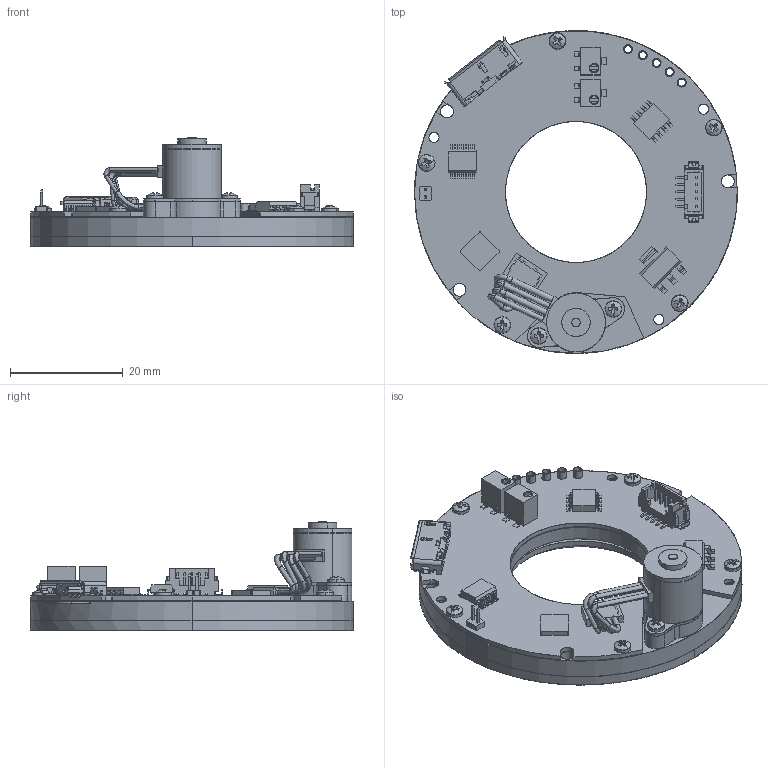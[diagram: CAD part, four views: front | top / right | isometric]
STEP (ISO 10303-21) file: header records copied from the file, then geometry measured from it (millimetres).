
FILE_DESCRIPTION (( 'STEP AP214' ), '1' );
FILE_NAME ('AI25N1T.STEP', '2017-07-18T20:44:06', ( 'admin' ), ( 'Hewlett-Packard Company' ), 'SwSTEP 2.0', 'SolidWorks 2016', '' );
FILE_SCHEMA (( 'AUTOMOTIVE_DESIGN' ));
Length unit declared in the file: inch
Products named in the file (2): AI25N1T
Bounding box: 57.15 x 57.15 x 19.22 mm (x, y, z)
Surface area: 15823.7 mm2 (no closed solid volume)
Topology: 0 solids, 1246 shells, 1326 faces, 7530 edges, 7447 vertices
Faces by surface type: plane 766, cylinder 474, bspline 50, cone 36
Entity records: 103905 total; most frequent: CARTESIAN_POINT 39645, DIRECTION 9618, ORIENTED_EDGE 7610, EDGE_CURVE 7530, VERTEX_POINT 7447, VECTOR 4930, LINE 4930, AXIS2_PLACEMENT_3D 2344
